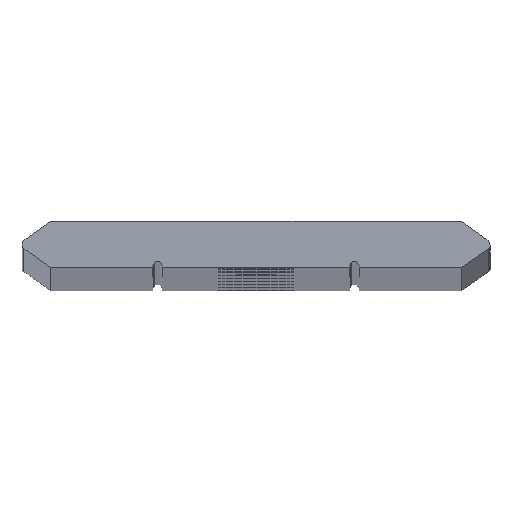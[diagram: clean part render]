
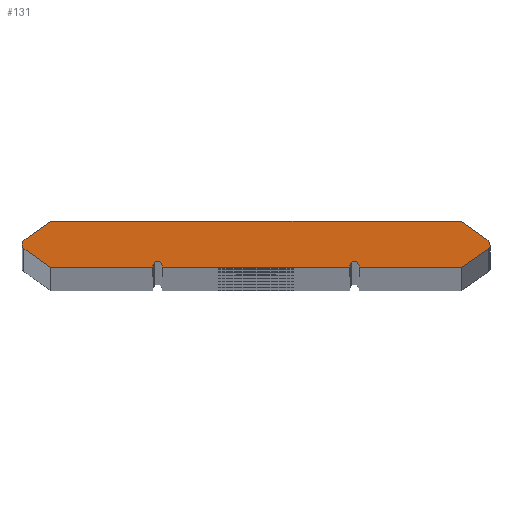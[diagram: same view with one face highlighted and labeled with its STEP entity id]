
A CAD part, top view. The second image highlights one B-rep face of the part: STEP entity #131.
In plain terms, the highlighted planar face has unit normal (0, 0, 1).
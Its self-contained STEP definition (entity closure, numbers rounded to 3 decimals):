
#131=ADVANCED_FACE('',(#334),#335,.T.);
#334=FACE_OUTER_BOUND('',#546,.T.);
#335=PLANE('',#547);
#546=EDGE_LOOP('',(#906,#907,#908,#909,#910,#911,#912,#913,#914,#915,#916,#917,#918,#919,#920,#921));
#547=AXIS2_PLACEMENT_3D('',#922,#923,#924);
#906=ORIENTED_EDGE('',*,*,#1015,.T.);
#907=ORIENTED_EDGE('',*,*,#997,.T.);
#908=ORIENTED_EDGE('',*,*,#991,.T.);
#909=ORIENTED_EDGE('',*,*,#994,.T.);
#910=ORIENTED_EDGE('',*,*,#1084,.T.);
#911=ORIENTED_EDGE('',*,*,#1085,.T.);
#912=ORIENTED_EDGE('',*,*,#1086,.T.);
#913=ORIENTED_EDGE('',*,*,#1087,.T.);
#914=ORIENTED_EDGE('',*,*,#1077,.T.);
#915=ORIENTED_EDGE('',*,*,#1088,.T.);
#916=ORIENTED_EDGE('',*,*,#1089,.T.);
#917=ORIENTED_EDGE('',*,*,#1090,.T.);
#918=ORIENTED_EDGE('',*,*,#1091,.T.);
#919=ORIENTED_EDGE('',*,*,#1092,.T.);
#920=ORIENTED_EDGE('',*,*,#1083,.T.);
#921=ORIENTED_EDGE('',*,*,#1081,.T.);
#922=CARTESIAN_POINT('',(-24.918,0.,0.));
#923=DIRECTION('',(0.,0.0,1.0));
#924=DIRECTION('',(0.,1.0,0.));
#991=EDGE_CURVE('',#1101,#1105,#1107,.T.);
#994=EDGE_CURVE('',#1105,#1110,#1112,.T.);
#997=EDGE_CURVE('',#1114,#1101,#1117,.T.);
#1015=EDGE_CURVE('',#1152,#1114,#1153,.T.);
#1077=EDGE_CURVE('',#1274,#1275,#1276,.T.);
#1081=EDGE_CURVE('',#1279,#1152,#1281,.T.);
#1083=EDGE_CURVE('',#1282,#1279,#1284,.T.);
#1084=EDGE_CURVE('',#1110,#1285,#1286,.T.);
#1085=EDGE_CURVE('',#1285,#1287,#1288,.T.);
#1086=EDGE_CURVE('',#1287,#1289,#1290,.T.);
#1087=EDGE_CURVE('',#1289,#1274,#1291,.T.);
#1088=EDGE_CURVE('',#1275,#1292,#1293,.T.);
#1089=EDGE_CURVE('',#1292,#1294,#1295,.T.);
#1090=EDGE_CURVE('',#1294,#1296,#1297,.T.);
#1091=EDGE_CURVE('',#1296,#1298,#1299,.T.);
#1092=EDGE_CURVE('',#1298,#1282,#1300,.T.);
#1101=VERTEX_POINT('',#1309);
#1105=VERTEX_POINT('',#1314);
#1107=CIRCLE('',#1317,0.551);
#1110=VERTEX_POINT('',#1321);
#1112=LINE('',#1324,#1325);
#1114=VERTEX_POINT('',#1327);
#1117=LINE('',#1332,#1333);
#1152=VERTEX_POINT('',#1369);
#1153=LINE('',#1370,#1371);
#1274=VERTEX_POINT('',#1502);
#1275=VERTEX_POINT('',#1503);
#1276=LINE('',#1504,#1505);
#1279=VERTEX_POINT('',#1510);
#1281=LINE('',#1513,#1514);
#1282=VERTEX_POINT('',#1515);
#1284=CIRCLE('',#1518,0.552);
#1285=VERTEX_POINT('',#1519);
#1286=LINE('',#1520,#1521);
#1287=VERTEX_POINT('',#1522);
#1288=LINE('',#1523,#1524);
#1289=VERTEX_POINT('',#1525);
#1290=CIRCLE('',#1526,0.5);
#1291=LINE('',#1527,#1528);
#1292=VERTEX_POINT('',#1529);
#1293=LINE('',#1530,#1531);
#1294=VERTEX_POINT('',#1532);
#1295=CIRCLE('',#1533,0.5);
#1296=VERTEX_POINT('',#1534);
#1297=LINE('',#1535,#1536);
#1298=VERTEX_POINT('',#1537);
#1299=LINE('',#1538,#1539);
#1300=LINE('',#1540,#1541);
#1309=CARTESIAN_POINT('',(-24.765,0.452,0.));
#1314=CARTESIAN_POINT('',(-24.765,-0.452,0.));
#1317=AXIS2_PLACEMENT_3D('',#1561,#1562,#1563);
#1321=CARTESIAN_POINT('',(-21.89,-2.465,0.));
#1324=CARTESIAN_POINT('',(-25.08,-0.231,0.));
#1325=VECTOR('',#1566,1.0);
#1327=CARTESIAN_POINT('',(-21.89,2.465,0.));
#1332=CARTESIAN_POINT('',(-25.08,0.231,0.));
#1333=VECTOR('',#1569,1.0);
#1369=CARTESIAN_POINT('',(21.89,2.465,0.));
#1370=CARTESIAN_POINT('',(22.27,2.465,0.));
#1371=VECTOR('',#1619,1.0);
#1502=CARTESIAN_POINT('',(-10.,-2.465,0.));
#1503=CARTESIAN_POINT('',(10.0,-2.465,0.));
#1504=CARTESIAN_POINT('',(-10.,-2.465,0.));
#1505=VECTOR('',#1783,1.0);
#1510=CARTESIAN_POINT('',(24.765,0.452,0.));
#1513=CARTESIAN_POINT('',(-8.361,23.647,0.));
#1514=VECTOR('',#1787,1.0);
#1515=CARTESIAN_POINT('',(24.78,-0.441,0.));
#1518=AXIS2_PLACEMENT_3D('',#1789,#1790,#1791);
#1519=CARTESIAN_POINT('',(-11.,-2.465,0.));
#1520=CARTESIAN_POINT('',(-22.27,-2.465,0.));
#1521=VECTOR('',#1792,1.0);
#1522=CARTESIAN_POINT('',(-11.,-2.265,0.));
#1523=CARTESIAN_POINT('',(-11.,-2.465,0.));
#1524=VECTOR('',#1793,1.0);
#1525=CARTESIAN_POINT('',(-10.,-2.265,0.));
#1526=AXIS2_PLACEMENT_3D('',#1794,#1795,#1796);
#1527=CARTESIAN_POINT('',(-10.,-2.265,0.));
#1528=VECTOR('',#1797,1.0);
#1529=CARTESIAN_POINT('',(10.0,-2.265,0.));
#1530=CARTESIAN_POINT('',(10.0,-2.465,0.));
#1531=VECTOR('',#1798,1.0);
#1532=CARTESIAN_POINT('',(11.,-2.265,0.));
#1533=AXIS2_PLACEMENT_3D('',#1799,#1800,#1801);
#1534=CARTESIAN_POINT('',(11.0,-2.465,0.));
#1535=CARTESIAN_POINT('',(11.0,-2.265,0.));
#1536=VECTOR('',#1802,1.0);
#1537=CARTESIAN_POINT('',(21.89,-2.465,0.));
#1538=CARTESIAN_POINT('',(11.0,-2.465,0.));
#1539=VECTOR('',#1803,1.0);
#1540=CARTESIAN_POINT('',(-8.361,-23.647,0.));
#1541=VECTOR('',#1804,1.0);
#1561=CARTESIAN_POINT('',(-24.449,0.,0.));
#1562=DIRECTION('',(0.,0.0,1.0));
#1563=DIRECTION('',(0.,1.0,0.));
#1566=DIRECTION('',(0.819,-0.574,0.));
#1569=DIRECTION('',(-0.819,-0.574,0.));
#1619=DIRECTION('',(-1.0,0.,0.));
#1783=DIRECTION('',(1.0,0.,0.));
#1787=DIRECTION('',(-0.819,0.574,0.));
#1789=CARTESIAN_POINT('',(24.448,0.,0.));
#1790=DIRECTION('',(0.,0.0,1.0));
#1791=DIRECTION('',(0.,1.0,0.));
#1792=DIRECTION('',(1.0,0.,0.));
#1793=DIRECTION('',(0.,1.0,0.));
#1794=CARTESIAN_POINT('',(-10.5,-2.265,0.));
#1795=DIRECTION('',(0.,0.,-1.0));
#1796=DIRECTION('',(0.,1.0,0.));
#1797=DIRECTION('',(0.,-1.0,0.));
#1798=DIRECTION('',(0.,1.0,0.));
#1799=CARTESIAN_POINT('',(10.5,-2.265,0.));
#1800=DIRECTION('',(0.,0.,-1.0));
#1801=DIRECTION('',(0.,1.0,0.));
#1802=DIRECTION('',(0.,-1.0,0.));
#1803=DIRECTION('',(1.0,0.,0.));
#1804=DIRECTION('',(0.819,0.574,0.));
